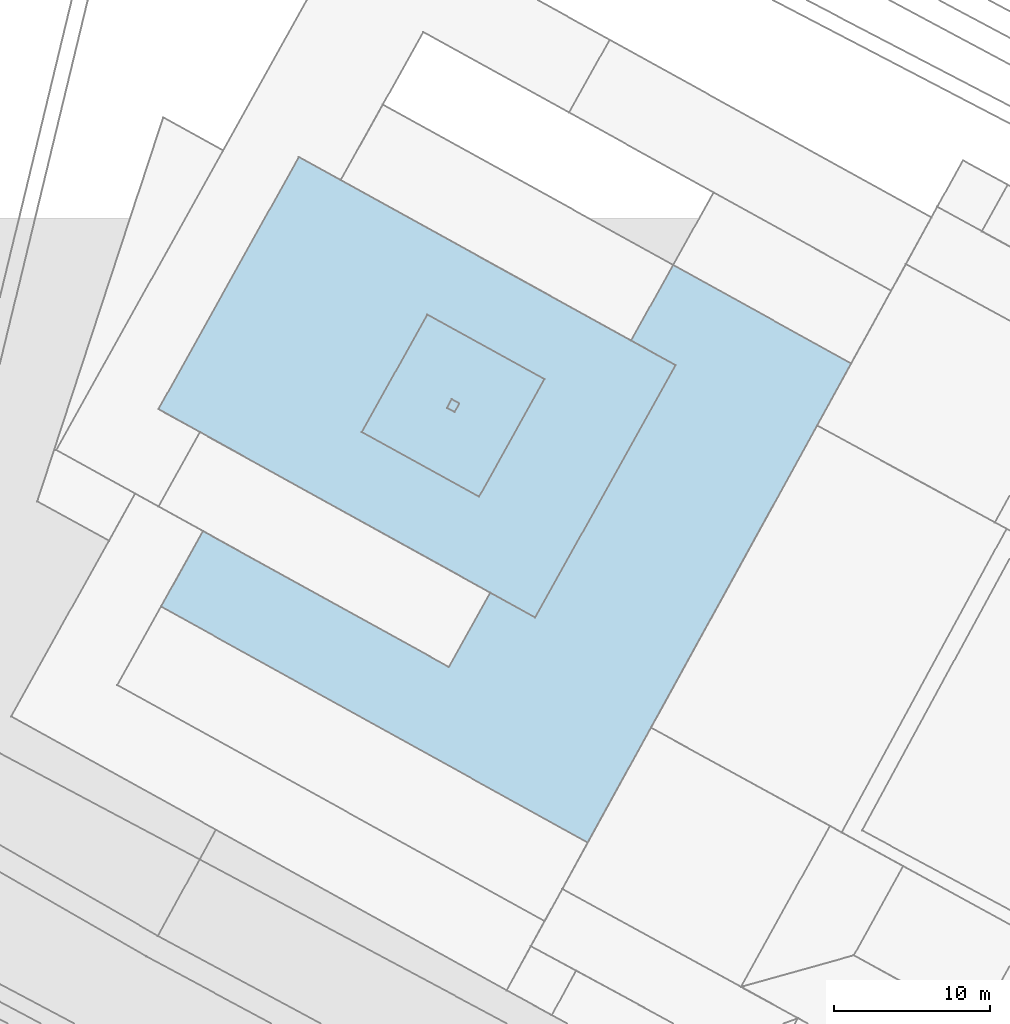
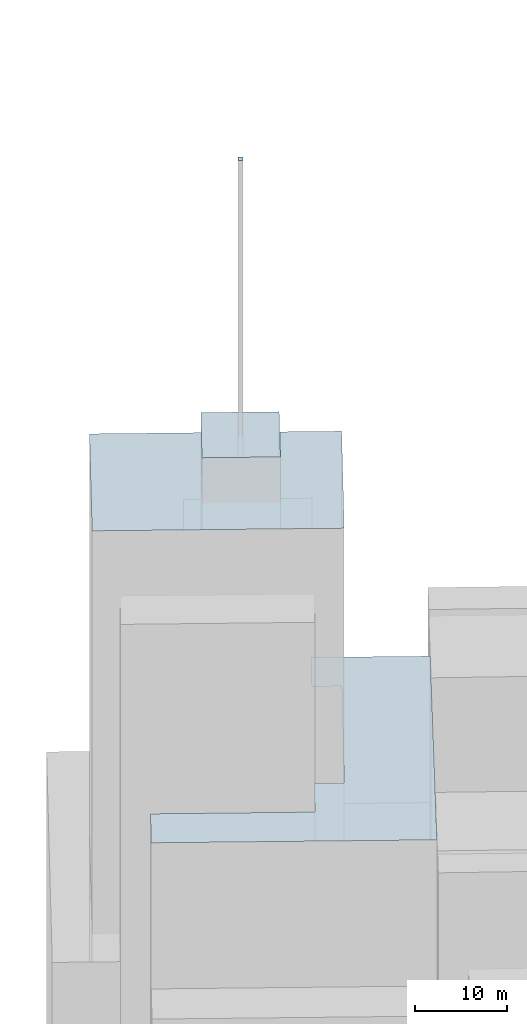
# Not in any storey, part 40 of 76: 4 roofs.
"""IFC2X3 model written with IfcOpenShell, lengths in metres."""

from ifc_helpers import new_model, si_unit, frame, origin_with_axes, place, context, subcontext, project, faceted_brep, element, save


model = new_model("IFC2X3")

# Units and contexts
model_context = context("Model", 3, precision=1e-05, world=origin_with_axes())
body_context = subcontext(model_context, "Body", "Model", "MODEL_VIEW")
ifc_project = project(units=[si_unit("AREAUNIT", "SQUARE_METRE"), si_unit("LENGTHUNIT", "METRE")], contexts=[model_context])

# Roofs
roof_1_placement = place(None, frame((16.7688335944, 354.7226631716, 22.4076126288), z_axis=(0.0, 0.0, 1.0), x_axis=(1.0, 0.0, 0.0)))
element("IfcRoof", 1, at=roof_1_placement, Name="Toiture 0", ShapeType="NOTDEFINED", context=body_context, shape_type="Brep", body=[
    faceted_brep([(2.6874090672, 4.8273569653, 80.0), (0.0, 0.0, 80.0), (27.3056955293, -15.1041300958, 80.0), (44.1700510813, 15.5562215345, 80.0), (32.7770605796, 21.8632672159, 80.0), (30.0813661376, 17.0247000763, 80.0), (23.9392342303, -0.6991752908, 80.0), (21.0760840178, 0.8885216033, 80.0), (18.4215440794, -3.8607450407, 80.0), (32.9359432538, 15.4480094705, 80.0)], [[[0, 1, 2]], [[3, 4, 5]], [[6, 7, 8]], [[8, 0, 2]], [[3, 5, 9]], [[6, 8, 2]], [[2, 3, 9]], [[9, 6, 2]]]),
])
roof_2_placement = place(None, frame((16.6053672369, 367.3551282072, 22.4076126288), z_axis=(0.0, 0.0, 1.0), x_axis=(1.0, 0.0, 0.0)))
element("IfcRoof", 2, at=roof_2_placement, Name="Toiture 0", ShapeType="NOTDEFINED", context=body_context, shape_type="Brep", body=[
    faceted_brep([(8.9883032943, 16.1470573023, 114.0), (0.0, 0.0, 114.0), (24.1027005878, -13.3316403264, 114.0), (33.0994096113, 2.8155444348, 114.0)], [[[0, 1, 2]], [[2, 3, 0]]]),
])
roof_3_placement = place(None, frame((35.0654153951, 367.4472321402, 22.5801140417), z_axis=(0.0, 0.0, 1.0), x_axis=(1.0, 0.0, 0.0)))
element("IfcRoof", 3, at=roof_3_placement, Name="Toiture 0", ShapeType="NOTDEFINED", context=body_context, shape_type="Brep", body=[
    faceted_brep([(0.3059728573, 0.5475615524, 156.6999969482), (0.0, 0.0, 156.6999969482), (0.4927502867, -0.2718373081, 156.6999969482), (0.7987231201, 0.2757242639, 156.6999969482)], [[[0, 1, 2]], [[2, 3, 0]]]),
])
roof_4_placement = place(None, frame((29.6218946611, 365.8963536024, 22.4832836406), z_axis=(0.0, 0.0, 1.0), x_axis=(1.0, 0.0, 0.0)))
element("IfcRoof", 4, at=roof_4_placement, Name="Toiture 0", ShapeType="NOTDEFINED", context=body_context, shape_type="Brep", body=[
    faceted_brep([(4.192455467, 7.5204723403, 120.0), (0.0, 0.0, 120.0), (7.5017517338, -4.1428926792, 120.0), (11.6857620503, 3.3774859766, 120.0)], [[[0, 1, 2]], [[2, 3, 0]]]),
])

save(model, "model.ifc")
